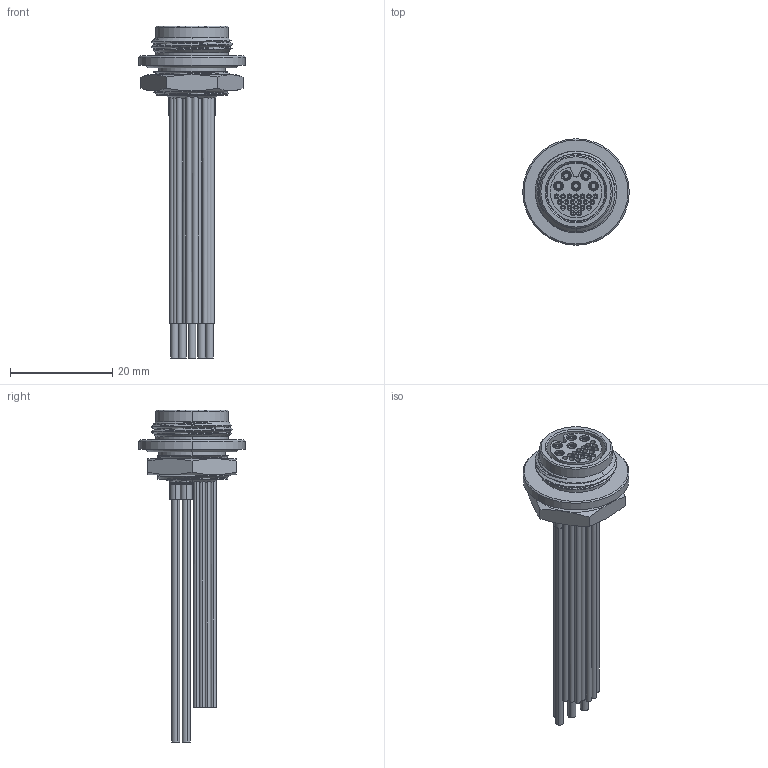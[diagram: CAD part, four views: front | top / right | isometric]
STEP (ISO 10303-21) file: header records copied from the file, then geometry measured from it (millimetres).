
FILE_DESCRIPTION (( 'STEP AP214' ), '1' );
FILE_NAME ('A90134-001 REV B.STEP', '2018-01-25T18:51:57', ( '' ), ( '' ), 'SwSTEP 2.0', 'SolidWorks 2017', '' );
FILE_SCHEMA (( 'AUTOMOTIVE_DESIGN' ));
Length unit declared in the file: inch
Products named in the file (1): A90134-001 REV_A
Bounding box: 20.85 x 20.85 x 65.06 mm (x, y, z)
Volume: 3842.3 mm3; surface area: 7924.4 mm2
Topology: 1 solids, 6 shells, 587 faces, 1275 edges, 822 vertices
Faces by surface type: cylinder 309, plane 151, cone 78, bspline 22, torus 21, sphere 6
Entity records: 23435 total; most frequent: CARTESIAN_POINT 10488, DIRECTION 2829, ORIENTED_EDGE 2542, EDGE_CURVE 1271, AXIS2_PLACEMENT_3D 1230, VERTEX_POINT 820, EDGE_LOOP 721, CIRCLE 664
